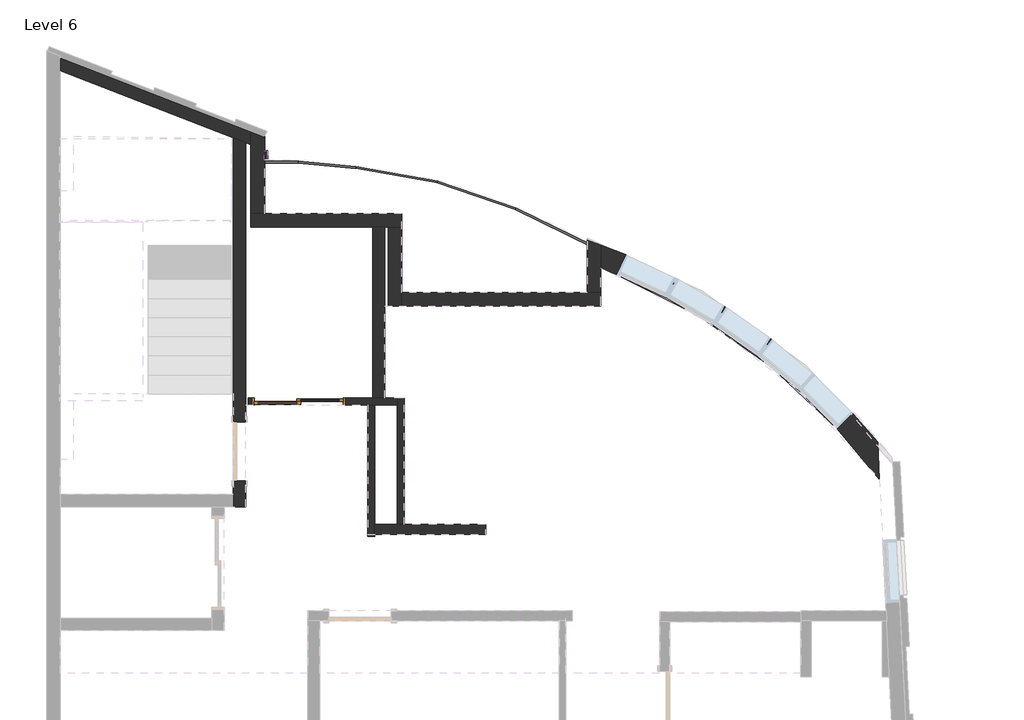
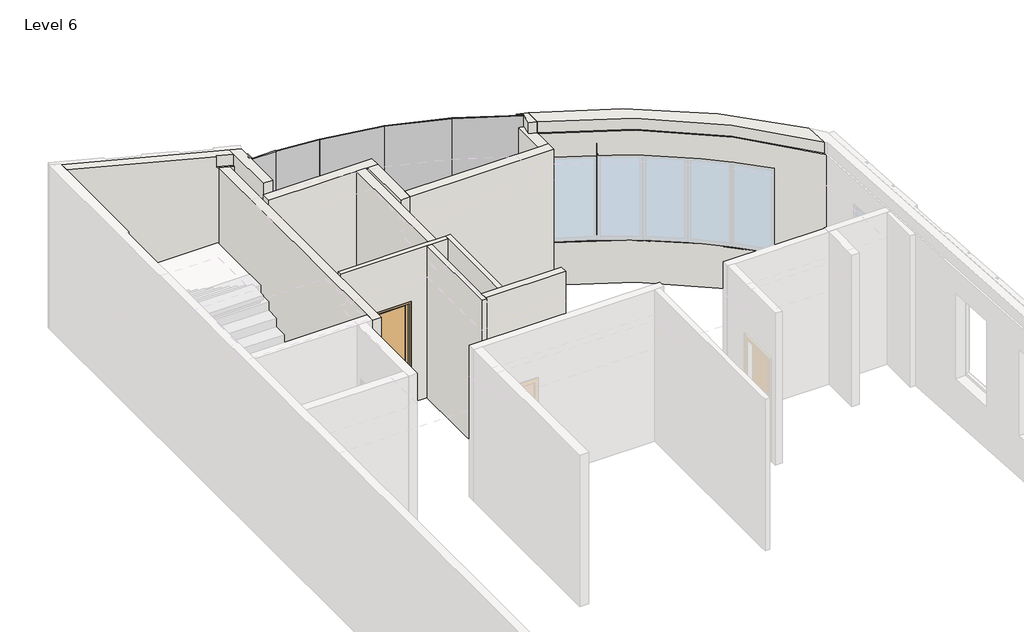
# One storey, part 4 of 5: 14 walls, 5 plates, 2 proxies, 1 door.
"""IFC4 building model written with IfcOpenShell, lengths in millimetres."""

from ifc_helpers import new_model, si_unit, frame, origin, place, context, project, spatial, polyline, circle_curve, outline, extrude, faceted_brep, transform, mapped, element, save
from ifc_brep_helpers import plane_surface, cylinder_surface, revolved_surface, advanced_brep
from components import sliding_door_2_panel_aus_ee5771a8, system_panel_glazed_224d79fb, system_panel_glazed_0fb09b64, system_panel_glazed_2140e779, system_panel_glazed_0c0ff7ba

model = new_model("IFC4")

# Units and contexts
model_context = context("Model", 3, world=origin())
ifc_project = project(units=[si_unit("LENGTHUNIT", "METRE", prefix="MILLI")], contexts=[model_context])

# Site, building, storey
site = spatial("IfcSite", under=ifc_project)
building = spatial("IfcBuilding", under=site)
storey = spatial("IfcBuildingStorey", under=building, Name="Level 6", Elevation=22000.0)

# Proxies
placement = place(None, origin())
element("IfcBuildingElementProxy", 1, Name="Reveal", ObjectType="Reveal", at=placement, inside=storey, context=model_context, shape_type="SweptSolid", body=[
    extrude(outline(polyline([(2938.093022, 13732.1068799), (2988.093022, 13732.1068799), (2988.093022, 13599.3570533), (2938.093022, 13599.3570533), (2938.093022, 13732.1068799)])), frame((0.0, 0.0, 24635.0), z_axis=(0.0, 0.0, 1.0), x_axis=(1.0, 0.0, 0.0)), (0.0, 0.0, 1.0), 50.0),
])
element("IfcBuildingElementProxy", 2, Name="Reveal", ObjectType="Reveal", at=placement, inside=storey, context=model_context, shape_type="SweptSolid", body=[
    extrude(outline(polyline([(2938.093022, 13732.1068799), (2988.093022, 13732.1068799), (2988.093022, 13599.3570533), (2938.093022, 13599.3570533), (2938.093022, 13732.1068799)])), frame((0.0, 0.0, 22875.0), z_axis=(0.0, 0.0, 1.0), x_axis=(1.0, 0.0, 0.0)), (0.0, 0.0, 1.0), 50.0),
])

# Door
sliding_door_2_panel_aus_shape = sliding_door_2_panel_aus_ee5771a8(model_context)
element("IfcDoor", 3, ObjectType="Sliding Door - 2 Panel (AUS) : elavator door", at=placement, inside=storey, context=model_context, shape_type="MappedRepresentation", body=[
    mapped(sliding_door_2_panel_aus_shape, transform((3525.434997, 10056.8748959, 22000.0), x_axis=(-1.0, 0.0, 0.0), y_axis=(0.0, -1.0, 0.0), z_axis=(0.0, 0.0, 1.0))),
])

# Plates
system_panel_glazed_shape = system_panel_glazed_224d79fb(model_context)
element("IfcPlate", 4, ObjectType="System Panel : Glazed", at=placement, inside=storey, context=model_context, shape_type="MappedRepresentation", body=[
    mapped(system_panel_glazed_shape, transform((6054.0124771, 13110.8072352, 22000.0), x_axis=(-0.9455185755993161, 0.32556815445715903, 0.0), y_axis=(-0.32556815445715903, -0.9455185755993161, 0.0), z_axis=(0.0, 0.0, 1.0))),
])
element("IfcPlate", 5, ObjectType="System Panel : Glazed", at=placement, inside=storey, context=model_context, shape_type="MappedRepresentation", body=[
    mapped(system_panel_glazed_shape, transform((4876.5134167, 13415.3291978, 22000.0), x_axis=(-0.9848077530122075, 0.17364817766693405, 0.0), y_axis=(-0.17364817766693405, -0.9848077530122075, 0.0), z_axis=(0.0, 0.0, 1.0))),
])
system_panel_glazed_2_shape = system_panel_glazed_0fb09b64(model_context)
element("IfcPlate", 6, ObjectType="System Panel : Glazed", at=placement, inside=storey, context=model_context, shape_type="MappedRepresentation", body=[
    mapped(system_panel_glazed_2_shape, transform((3856.9795559, 13560.3058198, 22000.0), x_axis=(-0.9956808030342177, 0.09284254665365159, 0.0), y_axis=(-0.09284254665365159, -0.9956808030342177, 0.0), z_axis=(0.0, 0.0, 1.0))),
])
system_panel_glazed_3_shape = system_panel_glazed_2140e779(model_context)
element("IfcPlate", 7, ObjectType="System Panel : Glazed", at=placement, inside=storey, context=model_context, shape_type="MappedRepresentation", body=[
    mapped(system_panel_glazed_3_shape, transform((3189.0685843, 13599.3570533, 22000.0), x_axis=(-1.0, 0.0, 0.0), y_axis=(0.0, -1.0, 0.0), z_axis=(0.0, 0.0, 1.0))),
])
system_panel_glazed_4_shape = system_panel_glazed_0c0ff7ba(model_context)
element("IfcPlate", 8, ObjectType="System Panel : Glazed", at=placement, inside=storey, context=model_context, shape_type="MappedRepresentation", body=[
    mapped(system_panel_glazed_4_shape, transform((7196.5430293, 12636.269013, 22000.0), x_axis=(-0.8987940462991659, 0.43837114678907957, 0.0), y_axis=(-0.43837114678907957, -0.8987940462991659, 0.0), z_axis=(0.0, 0.0, 1.0))),
])

# Walls
element("IfcWall", 9, ObjectType="Generic - 20cm-gypsum-kamposite", at=placement, inside=storey, context=model_context, shape_type="AdvancedBrep", body=[
    advanced_brep(
    [(11908.3121492, 9469.3435074, 25500.0), (7862.3072504, 12351.1222388, 25500.0), (7862.3072504, 12041.0727933, 25500.0), (11933.8152789, 8968.3078963, 25500.0), (7862.3072504, 12351.1222388, 22000.0), (11908.3121492, 9469.3435074, 22000.0), (11936.5482631, 8914.6155682, 22000.0), (7862.3072504, 12008.9189597, 22000.0), (11908.3121492, 9469.3435074, 24745.0), (11544.8906493, 9885.6032931, 24745.0), (11544.8906493, 9885.6032931, 24730.0), (10356.3701317, 10970.353241, 24730.0), (10356.3701317, 10970.353241, 24745.0), (10349.7211648, 10975.4604273, 24745.0), (10349.7211648, 10975.4604273, 24730.0), (9682.5839736, 11443.5981936, 24730.0), (9682.5839736, 11443.5981936, 24745.0), (9675.5092952, 11448.1203824, 24745.0), (9675.5092952, 11448.1203824, 24730.0), (8970.5270255, 11857.0519163, 24730.0), (8970.5270255, 11857.0519163, 24745.0), (8958.907306, 11863.1346618, 24745.0), (8958.907306, 11863.1346618, 24730.0), (8221.1493402, 12209.4555878, 24730.0), (8221.1493402, 12209.4555878, 24745.0), (7862.3072504, 12351.1222388, 24745.0), (7862.3072504, 12351.1222388, 22875.0), (11908.3121492, 9469.3435074, 22875.0), (11908.3121492, 9469.3435074, 22925.0), (11544.8906493, 9885.6032931, 22925.0), (11544.8906493, 9885.6032931, 24695.0), (11908.3121492, 9469.3435074, 24695.0), (8221.1493402, 12209.4555878, 22925.0), (7862.3072504, 12351.1222388, 22925.0), (7862.3072504, 12351.1222388, 24695.0), (8221.1493402, 12209.4555878, 24695.0), (10356.3701317, 10970.353241, 22925.0), (10349.7211648, 10975.4604273, 22925.0), (10349.7211648, 10975.4604273, 24695.0), (10356.3701317, 10970.353241, 24695.0), (9682.5839736, 11443.5981936, 22925.0), (9675.5092952, 11448.1203824, 22925.0), (9675.5092952, 11448.1203824, 24695.0), (9682.5839736, 11443.5981936, 24695.0), (8970.5270255, 11857.0519163, 22925.0), (8958.907306, 11863.1346618, 22925.0), (8958.907306, 11863.1346618, 24695.0), (8970.5270255, 11857.0519163, 24695.0), (11936.5482631, 8914.6155682, 25259.0), (7862.3072504, 12008.9189597, 25259.0), (8085.0423074, 11919.5105106, 22900.0), (8085.0423074, 11919.5105106, 24730.0), (11319.3000133, 9658.2222537, 24730.0), (11319.3000133, 9658.2222537, 22900.0), (11910.4512496, 9427.3186475, 22875.0), (11910.4512496, 9427.3186475, 22925.0), (11910.4512496, 9427.3186475, 24695.0), (11910.4512496, 9427.3186475, 24745.0), (11933.8152789, 8968.3078963, 25259.0), (11527.266896, 9867.8396686, 24730.0), (11527.266896, 9867.8396686, 24695.0), (11527.266896, 9867.8396686, 22925.0), (11527.266896, 9867.8396686, 22900.0), (10335.3479854, 10954.9773917, 24730.0), (10293.8645813, 10895.8599189, 24730.0), (10340.2860207, 10951.1844014, 24730.0), (8210.516289, 12186.8042907, 24730.0), (8948.2742549, 11840.4833647, 24730.0), (8894.6346191, 11726.2163204, 24730.0), (8957.9716481, 11835.4069275, 24730.0), (9662.9539178, 11426.4753937, 24730.0), (9626.6451976, 11363.8805536, 24730.0), (9668.2107942, 11423.1151579, 24730.0), (10293.8645813, 10895.8599189, 22900.0), (10340.2860207, 10951.1844014, 22900.0), (10340.2860207, 10951.1844014, 22925.0), (10340.2860207, 10951.1844014, 24695.0), (10335.3479854, 10954.9773917, 22900.0), (9668.2107942, 11423.1151579, 22900.0), (9626.6451976, 11363.8805536, 22900.0), (9662.9539178, 11426.4753937, 22900.0), (8957.9716481, 11835.4069275, 22900.0), (8894.6346191, 11726.2163204, 22900.0), (8948.2742549, 11840.4833647, 22900.0), (8210.516289, 12186.8042907, 22900.0), (10335.3479854, 10954.9773917, 24695.0), (10335.3479854, 10954.9773917, 22925.0), (9668.2107942, 11423.1151579, 22925.0), (9668.2107942, 11423.1151579, 24695.0), (9662.9539178, 11426.4753937, 24695.0), (9662.9539178, 11426.4753937, 22925.0), (8957.9716481, 11835.4069275, 22925.0), (8957.9716481, 11835.4069275, 24695.0), (8948.2742549, 11840.4833647, 24695.0), (8948.2742549, 11840.4833647, 22925.0), (8210.516289, 12186.8042907, 22925.0), (8210.516289, 12186.8042907, 24695.0), (7862.3072504, 12041.0727933, 25259.0), (7862.3072504, 12324.4469309, 24745.0), (7862.3072504, 12324.4469309, 24695.0), (7862.3072504, 12324.4469309, 22925.0), (7862.3072504, 12324.4469309, 22875.0), (11527.266896, 9867.8396686, 24745.0), (8210.516289, 12186.8042907, 24745.0), (8957.9716481, 11835.4069275, 24745.0), (8948.2742549, 11840.4833647, 24745.0), (9668.2107942, 11423.1151579, 24745.0), (9662.9539178, 11426.4753937, 24745.0), (10340.2860207, 10951.1844014, 24745.0), (10335.3479854, 10954.9773917, 24745.0)],
    [
        (0, 1, circle_curve(frame((4535.6080259, 3399.2748166, 25500.0), z_axis=(0.0, 0.0, 1.0), x_axis=(0.7954529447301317, 0.6060153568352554, 0.0)), 9550.0)),
        (1, 2),
        (2, 3, circle_curve(frame((4535.6080259, 3399.2748166, 25500.0), z_axis=(0.0, 0.0, -1.0), x_axis=(1.0, 0.0, 0.0)), 9260.0)),
        (3, 0),
        (4, 5, circle_curve(frame((4535.6080259, 3399.2748166, 22000.0), z_axis=(0.0, 0.0, -1.0), x_axis=(0.7954529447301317, 0.6060153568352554, 0.0)), 9550.0)),
        (5, 6),
        (6, 7, circle_curve(frame((4535.6080259, 3399.2748166, 22000.0), z_axis=(0.0, 0.0, 1.0), x_axis=(0.7954529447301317, 0.6060153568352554, 0.0)), 9230.0)),
        (7, 4),
        (0, 8),
        (8, 9, circle_curve(frame((4535.6080259, 3399.2748166, 24745.0), z_axis=(0.0, 0.0, 1.0), x_axis=(0.7954529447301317, 0.6060153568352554, 0.0)), 9550.0)),
        (9, 10),
        (10, 11, circle_curve(frame((4535.6080259, 3399.2748166, 24730.0), z_axis=(0.0, 0.0, 1.0), x_axis=(0.7954529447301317, 0.6060153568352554, 0.0)), 9550.0)),
        (11, 12),
        (12, 13, circle_curve(frame((4535.6080259, 3399.2748166, 24745.0), z_axis=(0.0, 0.0, 1.0), x_axis=(0.7954529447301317, 0.6060153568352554, 0.0)), 9550.0)),
        (13, 14),
        (14, 15, circle_curve(frame((4535.6080259, 3399.2748166, 24730.0), z_axis=(0.0, 0.0, 1.0), x_axis=(0.7954529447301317, 0.6060153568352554, 0.0)), 9550.0)),
        (15, 16),
        (16, 17, circle_curve(frame((4535.6080259, 3399.2748166, 24745.0), z_axis=(0.0, 0.0, 1.0), x_axis=(0.7954529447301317, 0.6060153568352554, 0.0)), 9550.0)),
        (17, 18),
        (18, 19, circle_curve(frame((4535.6080259, 3399.2748166, 24730.0), z_axis=(0.0, 0.0, 1.0), x_axis=(0.7954529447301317, 0.6060153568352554, 0.0)), 9550.0)),
        (19, 20),
        (20, 21, circle_curve(frame((4535.6080259, 3399.2748166, 24745.0), z_axis=(0.0, 0.0, 1.0), x_axis=(0.7954529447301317, 0.6060153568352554, 0.0)), 9550.0)),
        (21, 22),
        (22, 23, circle_curve(frame((4535.6080259, 3399.2748166, 24730.0), z_axis=(0.0, 0.0, 1.0), x_axis=(0.7954529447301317, 0.6060153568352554, 0.0)), 9550.0)),
        (23, 24),
        (24, 25, circle_curve(frame((4535.6080259, 3399.2748166, 24745.0), z_axis=(0.0, 0.0, 1.0), x_axis=(0.7954529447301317, 0.6060153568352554, 0.0)), 9550.0)),
        (25, 1),
        (4, 26),
        (26, 27, circle_curve(frame((4535.6080259, 3399.2748166, 22875.0), z_axis=(0.0, 0.0, -1.0), x_axis=(0.7954529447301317, 0.6060153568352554, 0.0)), 9550.0)),
        (27, 5),
        (28, 29, circle_curve(frame((4535.6080259, 3399.2748166, 22925.0), z_axis=(0.0, 0.0, 1.0), x_axis=(0.7954529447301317, 0.6060153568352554, 0.0)), 9550.0)),
        (29, 30),
        (30, 31, circle_curve(frame((4535.6080259, 3399.2748166, 24695.0), z_axis=(0.0, 0.0, -1.0), x_axis=(0.7954529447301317, 0.6060153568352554, 0.0)), 9550.0)),
        (31, 28),
        (32, 33, circle_curve(frame((4535.6080259, 3399.2748166, 22925.0), z_axis=(0.0, 0.0, 1.0), x_axis=(0.7954529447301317, 0.6060153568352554, 0.0)), 9550.0)),
        (33, 34),
        (34, 35, circle_curve(frame((4535.6080259, 3399.2748166, 24695.0), z_axis=(0.0, 0.0, -1.0), x_axis=(0.7954529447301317, 0.6060153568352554, 0.0)), 9550.0)),
        (35, 32),
        (36, 37, circle_curve(frame((4535.6080259, 3399.2748166, 22925.0), z_axis=(0.0, 0.0, 1.0), x_axis=(0.7954529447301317, 0.6060153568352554, 0.0)), 9550.0)),
        (37, 38),
        (38, 39, circle_curve(frame((4535.6080259, 3399.2748166, 24695.0), z_axis=(0.0, 0.0, -1.0), x_axis=(0.7954529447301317, 0.6060153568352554, 0.0)), 9550.0)),
        (39, 36),
        (40, 41, circle_curve(frame((4535.6080259, 3399.2748166, 22925.0), z_axis=(0.0, 0.0, 1.0), x_axis=(0.7954529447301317, 0.6060153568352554, 0.0)), 9550.0)),
        (41, 42),
        (42, 43, circle_curve(frame((4535.6080259, 3399.2748166, 24695.0), z_axis=(0.0, 0.0, -1.0), x_axis=(0.7954529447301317, 0.6060153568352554, 0.0)), 9550.0)),
        (43, 40),
        (44, 45, circle_curve(frame((4535.6080259, 3399.2748166, 22925.0), z_axis=(0.0, 0.0, 1.0), x_axis=(0.7954529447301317, 0.6060153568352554, 0.0)), 9550.0)),
        (45, 46),
        (46, 47, circle_curve(frame((4535.6080259, 3399.2748166, 24695.0), z_axis=(0.0, 0.0, -1.0), x_axis=(0.7954529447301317, 0.6060153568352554, 0.0)), 9550.0)),
        (47, 44),
        (6, 48),
        (48, 49, circle_curve(frame((4535.6080259, 3399.2748166, 25259.0), z_axis=(0.0, 0.0, 1.0), x_axis=(0.7954529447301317, 0.6060153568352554, 0.0)), 9230.0)),
        (49, 7),
        (50, 51),
        (51, 52, circle_curve(frame((4535.6080259, 3399.2748166, 24730.0), z_axis=(0.0, 0.0, -1.0), x_axis=(0.7954529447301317, 0.6060153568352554, 0.0)), 9230.0)),
        (52, 53),
        (53, 50, circle_curve(frame((4535.6080259, 3399.2748166, 22900.0), z_axis=(0.0, 0.0, 1.0), x_axis=(0.7954529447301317, 0.6060153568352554, 0.0)), 9230.0)),
        (27, 54),
        (54, 55),
        (55, 28),
        (31, 56),
        (56, 57),
        (57, 8),
        (3, 58),
        (58, 48),
        (52, 59),
        (59, 60),
        (60, 30),
        (29, 61),
        (61, 62),
        (62, 53),
        (14, 63),
        (63, 64),
        (64, 65),
        (65, 11),
        (10, 59),
        (51, 66),
        (66, 23),
        (22, 67),
        (67, 68),
        (68, 69),
        (69, 19),
        (18, 70),
        (70, 71),
        (71, 72),
        (72, 15),
        (64, 73),
        (73, 74),
        (74, 75),
        (75, 36),
        (39, 76),
        (76, 65),
        (62, 74, circle_curve(frame((4535.6080259, 3399.2748166, 22900.0), z_axis=(0.0, 0.0, 1.0), x_axis=(0.32740306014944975, 0.9448847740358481, 0.0)), 9525.0)),
        (73, 77),
        (77, 78, circle_curve(frame((4535.6080259, 3399.2748166, 22900.0), z_axis=(0.0, 0.0, 1.0), x_axis=(0.32740306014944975, 0.9448847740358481, 0.0)), 9525.0)),
        (78, 79),
        (79, 80),
        (80, 81, circle_curve(frame((4535.6080259, 3399.2748166, 22900.0), z_axis=(0.0, 0.0, 1.0), x_axis=(0.32740306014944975, 0.9448847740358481, 0.0)), 9525.0)),
        (81, 82),
        (82, 83),
        (83, 84, circle_curve(frame((4535.6080259, 3399.2748166, 22900.0), z_axis=(0.0, 0.0, 1.0), x_axis=(0.32740306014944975, 0.9448847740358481, 0.0)), 9525.0)),
        (84, 50),
        (63, 85),
        (85, 38),
        (37, 86),
        (86, 77),
        (71, 79),
        (78, 87),
        (87, 40),
        (43, 88),
        (88, 72),
        (70, 89),
        (89, 42),
        (41, 90),
        (90, 80),
        (68, 82),
        (81, 91),
        (91, 44),
        (47, 92),
        (92, 69),
        (67, 93),
        (93, 46),
        (45, 94),
        (94, 83),
        (84, 95),
        (95, 32),
        (35, 96),
        (96, 66),
        (49, 97),
        (97, 2),
        (25, 98),
        (98, 99),
        (99, 34),
        (33, 100),
        (100, 101),
        (101, 26),
        (55, 61, circle_curve(frame((4535.6080259, 3399.2748166, 22925.0), z_axis=(0.0, 0.0, 1.0), x_axis=(0.32740306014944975, 0.9448847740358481, 0.0)), 9525.0)),
        (95, 100, circle_curve(frame((4535.6080259, 3399.2748166, 22925.0), z_axis=(0.0, 0.0, 1.0), x_axis=(0.32740306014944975, 0.9448847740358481, 0.0)), 9525.0)),
        (75, 86, circle_curve(frame((4535.6080259, 3399.2748166, 22925.0), z_axis=(0.0, 0.0, 1.0), x_axis=(0.32740306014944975, 0.9448847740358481, 0.0)), 9525.0)),
        (87, 90, circle_curve(frame((4535.6080259, 3399.2748166, 22925.0), z_axis=(0.0, 0.0, 1.0), x_axis=(0.32740306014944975, 0.9448847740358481, 0.0)), 9525.0)),
        (91, 94, circle_curve(frame((4535.6080259, 3399.2748166, 22925.0), z_axis=(0.0, 0.0, 1.0), x_axis=(0.32740306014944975, 0.9448847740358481, 0.0)), 9525.0)),
        (101, 54, circle_curve(frame((4535.6080259, 3399.2748166, 22875.0), z_axis=(0.0, 0.0, -1.0), x_axis=(0.32740306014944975, 0.9448847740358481, 0.0)), 9525.0)),
        (57, 102, circle_curve(frame((4535.6080259, 3399.2748166, 24745.0), z_axis=(0.0, 0.0, 1.0), x_axis=(0.7339562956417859, 0.6791966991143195, 0.0)), 9525.0)),
        (102, 9),
        (60, 56, circle_curve(frame((4535.6080259, 3399.2748166, 24695.0), z_axis=(0.0, 0.0, -1.0), x_axis=(0.7339562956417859, 0.6791966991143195, 0.0)), 9525.0)),
        (59, 102),
        (24, 103),
        (103, 98, circle_curve(frame((4535.6080259, 3399.2748166, 24745.0), z_axis=(0.0, 0.0, 1.0), x_axis=(0.32740306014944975, 0.9448847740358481, 0.0)), 9525.0)),
        (99, 96, circle_curve(frame((4535.6080259, 3399.2748166, 24695.0), z_axis=(0.0, 0.0, -1.0), x_axis=(0.32740306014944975, 0.9448847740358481, 0.0)), 9525.0)),
        (103, 66),
        (104, 105, circle_curve(frame((4535.6080259, 3399.2748166, 24745.0), z_axis=(0.0, 0.0, 1.0), x_axis=(0.4631726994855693, 0.8862680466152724, 0.0)), 9525.0)),
        (105, 21),
        (20, 104),
        (93, 92, circle_curve(frame((4535.6080259, 3399.2748166, 24695.0), z_axis=(0.0, 0.0, -1.0), x_axis=(0.4631726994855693, 0.8862680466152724, 0.0)), 9525.0)),
        (104, 69),
        (67, 105),
        (106, 107, circle_curve(frame((4535.6080259, 3399.2748166, 24745.0), z_axis=(0.0, 0.0, 1.0), x_axis=(0.5382095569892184, 0.8428110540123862, 0.0)), 9525.0)),
        (107, 17),
        (16, 106),
        (89, 88, circle_curve(frame((4535.6080259, 3399.2748166, 24695.0), z_axis=(0.0, 0.0, -1.0), x_axis=(0.5382095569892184, 0.8428110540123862, 0.0)), 9525.0)),
        (106, 72),
        (70, 107),
        (108, 109, circle_curve(frame((4535.6080259, 3399.2748166, 24745.0), z_axis=(0.0, 0.0, 1.0), x_axis=(0.6088076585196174, 0.7933178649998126, 0.0)), 9525.0)),
        (109, 13),
        (12, 108),
        (85, 76, circle_curve(frame((4535.6080259, 3399.2748166, 24695.0), z_axis=(0.0, 0.0, -1.0), x_axis=(0.6088076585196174, 0.7933178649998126, 0.0)), 9525.0)),
        (108, 65),
        (63, 109),
        (58, 97, circle_curve(frame((4535.6080259, 3399.2748166, 25259.0), z_axis=(0.0, 0.0, 1.0), x_axis=(1.0, 0.0, 0.0)), 9260.0)),
    ],
    [
        plane_surface(frame((12132.1836481, 9186.7214744, 25500.0), z_axis=(0.0, 0.0, 1.0), x_axis=(-0.6060153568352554, 0.7954529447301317, 0.0))),
        plane_surface(frame((12132.1836481, 9186.7214744, 22000.0), z_axis=(0.0, 0.0, -1.0), x_axis=(0.6060153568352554, -0.7954529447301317, 0.0))),
        cylinder_surface(frame((4535.6080259, 3399.2748166, 22000.0), z_axis=(0.0, 0.0, 1.0), x_axis=(0.7954529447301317, 0.6060153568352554, 0.0)), 9550.0),
        revolved_surface(polyline([(11877.638705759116, 8992.796560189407, 22000.0), (11877.638705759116, 8992.796560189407, 25259.0)]), (4535.6080259, 3399.2748166, 22000.0), (0.0, 0.0, -1.0)),
        plane_surface(frame((11929.5360205, 9052.3783941, 22000.0), z_axis=(0.9987070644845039, 0.05083502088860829, 0.0), x_axis=(0.05083502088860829, -0.9987070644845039, 0.0))),
        plane_surface(frame((10471.5277129, 8803.721596, 22900.0), z_axis=(-0.7098961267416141, 0.7043063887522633, 0.0), x_axis=(0.7043063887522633, 0.7098961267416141, 0.0))),
        plane_surface(frame((10001.1116007, 9279.0246578, 24730.0), z_axis=(0.0, 0.0, -1.0), x_axis=(0.6427769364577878, 0.7660533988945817, 0.0))),
        plane_surface(frame((9376.7780806, 9802.887861, 24730.0), z_axis=(0.7660533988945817, -0.6427769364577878, 0.0), x_axis=(0.6427769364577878, 0.7660533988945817, 0.0))),
        plane_surface(frame((9376.7780806, 9802.887861, 22900.0), z_axis=(0.0, 0.0, 1.0), x_axis=(0.6427769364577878, 0.7660533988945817, 0.0))),
        plane_surface(frame((9474.332262, 9727.9548086, 22900.0), z_axis=(-0.8185732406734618, 0.5744021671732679, 0.0), x_axis=(0.5744021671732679, 0.8185732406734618, 0.0))),
        plane_surface(frame((8807.1950709, 10196.0925748, 24730.0), z_axis=(0.8185732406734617, -0.574402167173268, 0.0), x_axis=(0.574402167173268, 0.8185732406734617, 0.0))),
        plane_surface(frame((8910.8324147, 10129.8467885, 22900.0), z_axis=(-0.8650089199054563, 0.5017564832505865, 0.0), x_axis=(0.5017564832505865, 0.8650089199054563, 0.0))),
        plane_surface(frame((8205.850145, 10538.7783223, 24730.0), z_axis=(0.8650089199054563, -0.5017564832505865, 0.0), x_axis=(0.5017564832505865, 0.8650089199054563, 0.0))),
        plane_surface(frame((8311.308421, 10483.5725268, 22900.0), z_axis=(-0.9052244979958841, 0.42493365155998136, 0.0), x_axis=(0.42493365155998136, 0.9052244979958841, 0.0))),
        plane_surface(frame((7573.5504552, 10829.8934528, 24730.0), z_axis=(0.9052244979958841, -0.42493365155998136, 0.0), x_axis=(0.42493365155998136, 0.9052244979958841, 0.0))),
        plane_surface(frame((7862.3072504, 12316.4556234, 22000.0), z_axis=(-1.0, 0.0, 0.0), x_axis=(0.0, 1.0, 0.0))),
        plane_surface(frame((4535.6080259, 3399.2748166, 22925.0), z_axis=(0.0, 0.0, -1.0), x_axis=(0.32740306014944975, 0.9448847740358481, 0.0))),
        plane_surface(frame((4535.6080259, 3399.2748166, 22875.0), z_axis=(0.0, 0.0, 1.0), x_axis=(0.32740306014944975, 0.9448847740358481, 0.0))),
        cylinder_surface(frame((4535.6080259, 3399.2748166, 22900.0), z_axis=(0.0, 0.0, -1.0), x_axis=(0.32740306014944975, 0.9448847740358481, 0.0)), 9525.0),
        plane_surface(frame((4535.6080259, 3399.2748166, 24745.0), z_axis=(0.0, 0.0, -1.0), x_axis=(0.7339562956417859, 0.6791966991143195, 0.0))),
        plane_surface(frame((4535.6080259, 3399.2748166, 24695.0), z_axis=(0.0, 0.0, 1.0), x_axis=(0.7339562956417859, 0.6791966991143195, 0.0))),
        cylinder_surface(frame((4535.6080259, 3399.2748166, 24720.0), z_axis=(0.0, 0.0, -1.0), x_axis=(0.7339562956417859, 0.6791966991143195, 0.0)), 9525.0),
        plane_surface(frame((4535.6080259, 3399.2748166, 24745.0), z_axis=(0.0, 0.0, -1.0), x_axis=(0.32740306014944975, 0.9448847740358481, 0.0))),
        plane_surface(frame((4535.6080259, 3399.2748166, 24695.0), z_axis=(0.0, 0.0, 1.0), x_axis=(0.32740306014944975, 0.9448847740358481, 0.0))),
        cylinder_surface(frame((4535.6080259, 3399.2748166, 24720.0), z_axis=(0.0, 0.0, -1.0), x_axis=(0.32740306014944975, 0.9448847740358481, 0.0)), 9525.0),
        plane_surface(frame((7573.5504552, 10829.8934528, 24730.0), z_axis=(-0.9052244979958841, 0.42493365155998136, 0.0), x_axis=(0.42493365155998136, 0.9052244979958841, 0.0))),
        plane_surface(frame((4535.6080259, 3399.2748166, 24745.0), z_axis=(0.0, 0.0, -1.0), x_axis=(0.4631726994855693, 0.8862680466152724, 0.0))),
        plane_surface(frame((4535.6080259, 3399.2748166, 24695.0), z_axis=(0.0, 0.0, 1.0), x_axis=(0.4631726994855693, 0.8862680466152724, 0.0))),
        cylinder_surface(frame((4535.6080259, 3399.2748166, 24720.0), z_axis=(0.0, 0.0, -1.0), x_axis=(0.4631726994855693, 0.8862680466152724, 0.0)), 9525.0),
        plane_surface(frame((8311.308421, 10483.5725268, 22900.0), z_axis=(0.9052244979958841, -0.42493365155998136, 0.0), x_axis=(0.42493365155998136, 0.9052244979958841, 0.0))),
        plane_surface(frame((8205.850145, 10538.7783223, 24730.0), z_axis=(-0.8650089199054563, 0.5017564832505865, 0.0), x_axis=(0.5017564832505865, 0.8650089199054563, 0.0))),
        plane_surface(frame((4535.6080259, 3399.2748166, 24745.0), z_axis=(0.0, 0.0, -1.0), x_axis=(0.5382095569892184, 0.8428110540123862, 0.0))),
        plane_surface(frame((4535.6080259, 3399.2748166, 24695.0), z_axis=(0.0, 0.0, 1.0), x_axis=(0.5382095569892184, 0.8428110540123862, 0.0))),
        cylinder_surface(frame((4535.6080259, 3399.2748166, 24720.0), z_axis=(0.0, 0.0, -1.0), x_axis=(0.5382095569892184, 0.8428110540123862, 0.0)), 9525.0),
        plane_surface(frame((8910.8324147, 10129.8467885, 22900.0), z_axis=(0.8650089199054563, -0.5017564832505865, 0.0), x_axis=(0.5017564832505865, 0.8650089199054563, 0.0))),
        plane_surface(frame((8807.1950709, 10196.0925748, 24730.0), z_axis=(-0.8185732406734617, 0.574402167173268, 0.0), x_axis=(0.574402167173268, 0.8185732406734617, 0.0))),
        plane_surface(frame((4535.6080259, 3399.2748166, 24745.0), z_axis=(0.0, 0.0, -1.0), x_axis=(0.6088076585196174, 0.7933178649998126, 0.0))),
        plane_surface(frame((4535.6080259, 3399.2748166, 24695.0), z_axis=(0.0, 0.0, 1.0), x_axis=(0.6088076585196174, 0.7933178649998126, 0.0))),
        cylinder_surface(frame((4535.6080259, 3399.2748166, 24720.0), z_axis=(0.0, 0.0, -1.0), x_axis=(0.6088076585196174, 0.7933178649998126, 0.0)), 9525.0),
        plane_surface(frame((9474.332262, 9727.9548086, 22900.0), z_axis=(0.8185732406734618, -0.5744021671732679, 0.0), x_axis=(0.5744021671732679, 0.8185732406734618, 0.0))),
        plane_surface(frame((9376.7780806, 9802.887861, 24730.0), z_axis=(-0.7660533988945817, 0.6427769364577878, 0.0), x_axis=(0.6427769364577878, 0.7660533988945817, 0.0))),
        plane_surface(frame((10471.5277129, 8803.721596, 22900.0), z_axis=(0.7098961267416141, -0.7043063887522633, 0.0), x_axis=(0.7043063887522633, 0.7098961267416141, 0.0))),
        plane_surface(frame((-80.0421304, 14944.8648867, 25259.0), z_axis=(0.0, 0.0, 1.0), x_axis=(0.9323005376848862, -0.36168454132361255, 0.0))),
        revolved_surface(polyline([(13795.608025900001, 3399.2748166, 25259.0), (13795.608025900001, 3399.2748166, 25500.0)]), (4535.6080259, 3399.2748166, 25500.0), (0.0, 0.0, -1.0)),
    ],
    [
        (0, [[1, 2, 3, 4]]),
        (1, [[5, 6, 7, 8]]),
        (2, [[-1, 9, 10, 11, 12, 13, 14, 15, 16, 17, 18, 19, 20, 21, 22, 23, 24, 25, 26, 27]]),
        (2, [[-5, 28, 29, 30]]),
        (2, [[31, 32, 33, 34]]),
        (2, [[35, 36, 37, 38]]),
        (2, [[39, 40, 41, 42]]),
        (2, [[43, 44, 45, 46]]),
        (2, [[47, 48, 49, 50]]),
        (3, [[-7, 51, 52, 53], [54, 55, 56, 57]]),
        (4, [[-6, -30, 58, 59, 60, -34, 61, 62, 63, -9, -4, 64, 65, -51]]),
        (5, [[-56, 66, 67, 68, -32, 69, 70, 71]]),
        (6, [[-16, 72, 73, 74, 75, -12, 76, -66, -55, 77, 78, -24, 79, 80, 81, 82, -20, 83, 84, 85, 86]]),
        (7, [[87, 88, 89, 90, -42, 91, 92, -74]]),
        (8, [[-57, -71, 93, -88, 94, 95, 96, 97, 98, 99, 100, 101, 102]]),
        (9, [[-87, -73, 103, 104, -40, 105, 106, -94]]),
        (10, [[107, -96, 108, 109, -46, 110, 111, -85]]),
        (11, [[-107, -84, 112, 113, -44, 114, 115, -97]]),
        (12, [[116, -99, 117, 118, -50, 119, 120, -81]]),
        (13, [[-116, -80, 121, 122, -48, 123, 124, -100]]),
        (14, [[-54, -102, 125, 126, -38, 127, 128, -77]]),
        (15, [[-8, -53, 129, 130, -2, -27, 131, 132, 133, -36, 134, 135, 136, -28]]),
        (16, [[137, -69, -31, -60]]),
        (16, [[-134, -35, -126, 138]]),
        (16, [[139, -105, -39, -90]]),
        (16, [[140, -114, -43, -109]]),
        (16, [[141, -123, -47, -118]]),
        (17, [[142, -58, -29, -136]]),
        (18, [[-137, -59, -142, -135, -138, -125, -101, -124, -141, -117, -98, -115, -140, -108, -95, -106, -139, -89, -93, -70]]),
        (19, [[143, 144, -10, -63]]),
        (20, [[145, -61, -33, -68]]),
        (21, [[-143, -62, -145, -67, 146]]),
        (22, [[147, 148, -131, -26]]),
        (23, [[149, -127, -37, -133]]),
        (24, [[150, -128, -149, -132, -148]]),
        (25, [[-150, -147, -25, -78]]),
        (26, [[151, 152, -22, 153]]),
        (27, [[154, -119, -49, -122]]),
        (28, [[-151, 155, -120, -154, -121, 156]]),
        (29, [[-156, -79, -23, -152]]),
        (30, [[-155, -153, -21, -82]]),
        (31, [[157, 158, -18, 159]]),
        (32, [[160, -110, -45, -113]]),
        (33, [[-157, 161, -111, -160, -112, 162]]),
        (34, [[-162, -83, -19, -158]]),
        (35, [[-161, -159, -17, -86]]),
        (36, [[163, 164, -14, 165]]),
        (37, [[166, -91, -41, -104]]),
        (38, [[-163, 167, -92, -166, -103, 168]]),
        (39, [[-168, -72, -15, -164]]),
        (40, [[-167, -165, -13, -75]]),
        (41, [[-146, -76, -11, -144]]),
        (42, [[169, -129, -52, -65]]),
        (43, [[-169, -64, -3, -130]]),
    ],
),
])
element("IfcWall", 10, ObjectType="Generic - 15cm-gypsu-2boith", at=placement, inside=storey, context=model_context, shape_type="Brep", body=[
    faceted_brep([(4549.2779066, 8112.262158, 22000.0), (6174.9402277, 8112.262158, 22000.0), (6174.9402277, 8112.262158, 25259.0), (4549.2779066, 8112.262158, 25259.0), (6174.9402277, 8262.262158, 22000.0), (4979.9402277, 8262.262158, 22000.0), (4879.9402277, 8262.262158, 22000.0), (4549.2779066, 8262.262158, 22000.0), (4549.2779066, 8262.262158, 25259.0), (6174.9402277, 8262.262158, 25259.0)], [[[0, 1, 2, 3]], [[4, 5, 6, 7, 8, 9]], [[1, 0, 7, 6, 5, 4]], [[1, 4, 9, 2]], [[7, 0, 3, 8]], [[3, 2, 9, 8]]]),
])
element("IfcWall", 11, ObjectType="Generic - 10cm-gypsu-2boith", at=placement, inside=storey, context=model_context, shape_type="Brep", body=[
    faceted_brep([(4549.2779066, 8082.262158, 22000.0), (4549.2779066, 8112.262158, 22000.0), (4549.2779066, 8262.262158, 22000.0), (4549.2779066, 10006.8748959, 22000.0), (4549.2779066, 10006.8748959, 25259.0), (4549.2779066, 8262.262158, 25259.0), (4549.2779066, 8112.262158, 25259.0), (4549.2779066, 8082.262158, 25259.0), (4449.2779066, 10006.8748959, 22000.0), (4449.2779066, 8082.262158, 22000.0), (4449.2779066, 8082.262158, 25259.0), (4449.2779066, 10006.8748959, 25259.0)], [[[0, 1, 2, 3, 4, 5, 6, 7]], [[8, 9, 10, 11]], [[3, 2, 1, 0, 9, 8]], [[9, 0, 7, 10]], [[3, 8, 11, 4]], [[7, 6, 5, 4, 11, 10]]]),
])
element("IfcWall", 12, ObjectType="Generic - 10cm-gypsu-2boith", at=placement, inside=storey, context=model_context, shape_type="Brep", body=[
    faceted_brep([(4879.9402277, 10106.8748959, 22000.0), (4879.9402277, 10006.8748959, 22000.0), (4879.9402277, 8262.262158, 22000.0), (4879.9402277, 8262.262158, 25259.0), (4879.9402277, 10006.8748959, 25259.0), (4879.9402277, 10106.8748959, 25259.0), (4979.9402277, 8262.262158, 22000.0), (4979.9402277, 10106.8748959, 22000.0), (4979.9402277, 10106.8748959, 25259.0), (4979.9402277, 8262.262158, 25259.0)], [[[0, 1, 2, 3, 4, 5]], [[6, 7, 8, 9]], [[2, 1, 0, 7, 6]], [[2, 6, 9, 3]], [[7, 0, 5, 8]], [[5, 4, 3, 9, 8]]]),
])
element("IfcWall", 13, ObjectType="Generic - 10cm-gypsu-2boith", at=placement, inside=storey, context=model_context, shape_type="Brep", body=[
    faceted_brep([(4879.9402277, 10106.8748959, 22000.0), (4699.9587688, 10106.8748959, 22000.0), (4519.9587688, 10106.8748959, 22000.0), (4129.6769958, 10106.8748959, 22000.0), (4129.6769958, 10106.8748959, 24183.0), (2749.6769958, 10106.8748959, 24183.0), (2749.6769958, 10106.8748959, 22000.0), (2699.9587442, 10106.8748959, 22000.0), (2699.9587442, 10106.8748959, 25259.0), (4519.9587688, 10106.8748959, 25259.0), (4699.9587688, 10106.8748959, 25259.0), (4879.9402277, 10106.8748959, 25259.0), (4129.6769958, 10006.8748959, 22000.0), (4449.2779066, 10006.8748959, 22000.0), (4549.2779066, 10006.8748959, 22000.0), (4879.9402277, 10006.8748959, 22000.0), (4879.9402277, 10006.8748959, 25259.0), (4549.2779066, 10006.8748959, 25259.0), (4449.2779066, 10006.8748959, 25259.0), (2699.9587442, 10006.8748959, 25259.0), (2699.9587442, 10006.8748959, 22000.0), (2749.6769958, 10006.8748959, 22000.0), (2749.6769958, 10006.8748959, 24183.0), (4129.6769958, 10006.8748959, 24183.0)], [[[0, 1, 2, 3, 4, 5, 6, 7, 8, 9, 10, 11]], [[12, 13, 14, 15, 16, 17, 18, 19, 20, 21, 22, 23]], [[20, 7, 6, 21]], [[0, 15, 14, 13, 12, 3, 2, 1]], [[7, 20, 19, 8]], [[15, 0, 11, 16]], [[11, 10, 9, 8, 19, 18, 17, 16]], [[23, 4, 3, 12]], [[4, 23, 22, 5]], [[5, 22, 21, 6]]]),
])
element("IfcWall", 14, ObjectType="Generic - 18cm-gypsu-2boith 2", at=placement, inside=storey, context=model_context, shape_type="Brep", body=[
    faceted_brep([(2661.8607589, 8896.8748746, 22000.0), (2661.8607589, 8896.8748746, 24032.0), (2661.8607589, 9760.8748746, 24032.0), (2661.8607589, 9760.8748746, 22000.0), (2661.8607589, 13848.9694672, 22000.0), (2661.8607589, 13848.9694672, 25259.0), (2661.8607589, 8516.8748746, 25259.0), (2661.8607589, 8516.8748746, 22000.0), (2481.8607589, 8896.8748746, 24032.0), (2481.8607589, 8896.8748746, 22000.0), (2481.8607589, 8696.8748746, 22000.0), (2481.8607589, 8516.8748746, 22000.0), (2481.8607589, 8516.8748746, 25259.0), (2481.8607589, 8696.8748746, 25259.0), (2481.8607589, 13918.8001868, 25259.0), (2481.8607589, 13918.8001868, 22000.0), (2481.8607589, 9760.8748746, 22000.0), (2481.8607589, 9760.8748746, 24032.0)], [[[0, 1, 2, 3, 4, 5, 6, 7]], [[8, 9, 10, 11, 12, 13, 14, 15, 16, 17]], [[15, 4, 3, 16]], [[7, 11, 10, 9, 0]], [[4, 15, 14, 5]], [[11, 7, 6, 12]], [[1, 0, 9, 8]], [[2, 1, 8, 17]], [[3, 2, 17, 16]], [[6, 5, 14, 13, 12]]]),
])
element("IfcWall", 15, ObjectType="Generic - 18cm-gypsu-2boith 2", at=placement, inside=storey, context=model_context, shape_type="SweptSolid", body=[
    extrude(outline(polyline([(4519.9587688, 10106.8748959), (4519.9587688, 12611.9409286), (4699.9587688, 12611.9409286), (4699.9587688, 10106.8748959), (4519.9587688, 10106.8748959)])), frame((0.0, 0.0, 22000.0), z_axis=(0.0, 0.0, 1.0), x_axis=(1.0, 0.0, 0.0)), (0.0, 0.0, 1.0), 3259.0),
])
element("IfcWall", 16, ObjectType="kamposite5cm", at=placement, inside=storey, context=model_context, shape_type="Brep", body=[
    faceted_brep([(2913.093022, 13751.504302, 22000.0), (2913.093022, 13599.3570533, 22000.0), (2913.093022, 13599.3570533, 25500.0), (2913.093022, 13751.504302, 25500.0), (2963.093022, 13599.3570533, 22000.0), (2963.093022, 13732.1068799, 22000.0), (2963.093022, 13732.1068799, 22875.0), (2963.093022, 13599.3570533, 22875.0), (2963.093022, 13732.1068799, 25500.0), (2963.093022, 13599.3570533, 25500.0), (2963.093022, 13599.3570533, 24685.0), (2963.093022, 13732.1068799, 24685.0), (2963.093022, 13732.1068799, 24635.0), (2963.093022, 13599.3570533, 24635.0), (2963.093022, 13599.3570533, 22925.0), (2963.093022, 13732.1068799, 22925.0), (2938.093022, 13599.3570533, 22875.0), (2938.093022, 13599.3570533, 22925.0), (2938.093022, 13599.3570533, 24635.0), (2938.093022, 13599.3570533, 24685.0), (2938.093022, 13732.1068799, 24685.0), (2938.093022, 13732.1068799, 24635.0), (2938.093022, 13732.1068799, 22925.0), (2938.093022, 13732.1068799, 22875.0)], [[[0, 1, 2, 3]], [[4, 5, 6, 7]], [[8, 9, 10, 11]], [[12, 13, 14, 15]], [[1, 0, 5, 4]], [[2, 1, 4, 7, 16, 17, 14, 13, 18, 19, 10, 9]], [[3, 2, 9, 8]], [[20, 21, 12, 11]], [[19, 20, 11, 10]], [[21, 18, 13, 12]], [[21, 20, 19, 18]], [[22, 23, 6, 15]], [[17, 22, 15, 14]], [[23, 16, 7, 6]], [[23, 22, 17, 16]], [[0, 3, 8, 11, 12, 15, 6, 5]]]),
])
element("IfcWall", 17, ObjectType="Generic - 20cm-gypsum", at=placement, inside=storey, context=model_context, shape_type="Brep", body=[
    faceted_brep([(4949.6116933, 11454.5991251, 22000.0), (7862.3072504, 11454.5991251, 22000.0), (7862.3072504, 11454.5991251, 25259.0), (4949.6116933, 11454.5991251, 25259.0), (7862.3072504, 11654.5991251, 22000.0), (7662.3072504, 11654.5991251, 22000.0), (4949.6116933, 11654.5991251, 22000.0), (4949.6116933, 11654.5991251, 25259.0), (7662.3072504, 11654.5991251, 25259.0), (7862.3072504, 11654.5991251, 25259.0)], [[[0, 1, 2, 3]], [[4, 5, 6, 7, 8, 9]], [[1, 0, 6, 5, 4]], [[1, 4, 9, 2]], [[6, 0, 3, 7]], [[3, 2, 9, 8, 7]]]),
])
element("IfcWall", 18, ObjectType="Generic - 20cm-gypsum", at=placement, inside=storey, context=model_context, shape_type="AdvancedBrep", body=[
    advanced_brep(
    [(7862.3072504, 11654.5991251, 22000.0), (7862.3072504, 12008.9189597, 22000.0), (7862.3072504, 12351.1222388, 22000.0), (7862.3072504, 12351.1222388, 22875.0), (7862.3072504, 12324.4469309, 22875.0), (7862.3072504, 12324.4469309, 22925.0), (7862.3072504, 12351.1222388, 22925.0), (7862.3072504, 12351.1222388, 24695.0), (7862.3072504, 12324.4469309, 24695.0), (7862.3072504, 12324.4469309, 24745.0), (7862.3072504, 12351.1222388, 24745.0), (7862.3072504, 12351.1222388, 25500.0), (7862.3072504, 12041.0727933, 25500.0), (7862.3072504, 12041.0727933, 25259.0), (7862.3072504, 12008.9189597, 25259.0), (7862.3072504, 11654.5991251, 25259.0), (7662.3072504, 12422.9244086, 22000.0), (7662.3072504, 11654.5991251, 22000.0), (7662.3072504, 11654.5991251, 25259.0), (7662.3072504, 12409.1006238, 25259.0), (7662.3072504, 12409.1006238, 25500.0), (7662.3072504, 12422.9244086, 25500.0), (7662.3072504, 12422.9244086, 24745.0), (7662.3072504, 12396.4619859, 24745.0), (7662.3072504, 12396.4619859, 24695.0), (7662.3072504, 12422.9244086, 24695.0), (7662.3072504, 12422.9244086, 22925.0), (7662.3072504, 12396.4619859, 22925.0), (7662.3072504, 12396.4619859, 22875.0), (7662.3072504, 12422.9244086, 22875.0), (7764.1900252, 12359.4090743, 25500.0), (7717.6351631, 12095.3833312, 25500.0), (7717.6351631, 12095.3833312, 25259.0), (7764.1900252, 12359.4090743, 25259.0)],
    [
        (0, 1),
        (1, 2),
        (2, 3),
        (3, 4),
        (4, 5),
        (5, 6),
        (6, 7),
        (7, 8),
        (8, 9),
        (9, 10),
        (10, 11),
        (11, 12),
        (12, 13),
        (13, 14),
        (14, 15),
        (15, 0),
        (16, 17),
        (17, 18),
        (18, 19),
        (19, 20),
        (20, 21),
        (21, 22),
        (22, 23),
        (23, 24),
        (24, 25),
        (25, 26),
        (26, 27),
        (27, 28),
        (28, 29),
        (29, 16),
        (0, 17),
        (16, 2, circle_curve(frame((4535.6080259, 3399.2748166, 22000.0), z_axis=(0.0, 0.0, -1.0), x_axis=(0.7954529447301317, 0.6060153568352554, 0.0)), 9550.0)),
        (11, 21, circle_curve(frame((4535.6080259, 3399.2748166, 25500.0), z_axis=(0.0, 0.0, 1.0), x_axis=(0.7954529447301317, 0.6060153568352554, 0.0)), 9550.0)),
        (20, 30),
        (30, 31),
        (31, 12, circle_curve(frame((4535.6080259, 3399.2748166, 25500.0), z_axis=(0.0, 0.0, -1.0), x_axis=(1.0, 0.0, 0.0)), 9260.0)),
        (15, 18),
        (29, 3, circle_curve(frame((4535.6080259, 3399.2748166, 22875.0), z_axis=(0.0, 0.0, -1.0), x_axis=(0.7954529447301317, 0.6060153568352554, 0.0)), 9550.0)),
        (10, 22, circle_curve(frame((4535.6080259, 3399.2748166, 24745.0), z_axis=(0.0, 0.0, 1.0), x_axis=(0.7954529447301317, 0.6060153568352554, 0.0)), 9550.0)),
        (6, 26, circle_curve(frame((4535.6080259, 3399.2748166, 22925.0), z_axis=(0.0, 0.0, 1.0), x_axis=(0.7954529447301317, 0.6060153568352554, 0.0)), 9550.0)),
        (25, 7, circle_curve(frame((4535.6080259, 3399.2748166, 24695.0), z_axis=(0.0, 0.0, -1.0), x_axis=(0.7954529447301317, 0.6060153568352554, 0.0)), 9550.0)),
        (5, 27, circle_curve(frame((4535.6080259, 3399.2748166, 22925.0), z_axis=(0.0, 0.0, 1.0), x_axis=(0.32740306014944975, 0.9448847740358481, 0.0)), 9525.0)),
        (28, 4, circle_curve(frame((4535.6080259, 3399.2748166, 22875.0), z_axis=(0.0, 0.0, -1.0), x_axis=(0.32740306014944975, 0.9448847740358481, 0.0)), 9525.0)),
        (9, 23, circle_curve(frame((4535.6080259, 3399.2748166, 24745.0), z_axis=(0.0, 0.0, 1.0), x_axis=(0.32740306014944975, 0.9448847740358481, 0.0)), 9525.0)),
        (24, 8, circle_curve(frame((4535.6080259, 3399.2748166, 24695.0), z_axis=(0.0, 0.0, -1.0), x_axis=(0.32740306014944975, 0.9448847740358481, 0.0)), 9525.0)),
        (32, 33),
        (33, 19),
        (13, 32, circle_curve(frame((4535.6080259, 3399.2748166, 25259.0), z_axis=(0.0, 0.0, 1.0), x_axis=(1.0, 0.0, 0.0)), 9260.0)),
        (33, 30),
        (32, 31),
    ],
    [
        plane_surface(frame((7862.3072504, 12316.4556234, 22000.0), z_axis=(1.0, 0.0, 0.0), x_axis=(0.0, 1.0, 0.0))),
        plane_surface(frame((7662.3072504, 12316.4556234, 22000.0), z_axis=(-1.0, 0.0, 0.0), x_axis=(0.0, -1.0, 0.0))),
        plane_surface(frame((7862.3072504, 11554.5991251, 22000.0), z_axis=(0.0, 0.0, -1.0), x_axis=(-1.0, 0.0, 0.0))),
        plane_surface(frame((7862.3072504, 12217.4669281, 25500.0), z_axis=(0.0, 0.0, 1.0), x_axis=(-1.0, 0.0, 0.0))),
        plane_surface(frame((7749.728271, 11654.5991251, 22000.0), z_axis=(0.0, -1.0, 0.0), x_axis=(-1.0, 0.0, 0.0))),
        cylinder_surface(frame((4535.6080259, 3399.2748166, 22000.0), z_axis=(0.0, 0.0, 1.0), x_axis=(0.7954529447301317, 0.6060153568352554, 0.0)), 9550.0),
        plane_surface(frame((4535.6080259, 3399.2748166, 22925.0), z_axis=(0.0, 0.0, -1.0), x_axis=(0.32740306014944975, 0.9448847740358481, 0.0))),
        plane_surface(frame((4535.6080259, 3399.2748166, 22875.0), z_axis=(0.0, 0.0, 1.0), x_axis=(0.32740306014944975, 0.9448847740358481, 0.0))),
        cylinder_surface(frame((4535.6080259, 3399.2748166, 22900.0), z_axis=(0.0, 0.0, -1.0), x_axis=(0.32740306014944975, 0.9448847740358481, 0.0)), 9525.0),
        plane_surface(frame((4535.6080259, 3399.2748166, 24745.0), z_axis=(0.0, 0.0, -1.0), x_axis=(0.32740306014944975, 0.9448847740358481, 0.0))),
        plane_surface(frame((4535.6080259, 3399.2748166, 24695.0), z_axis=(0.0, 0.0, 1.0), x_axis=(0.32740306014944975, 0.9448847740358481, 0.0))),
        cylinder_surface(frame((4535.6080259, 3399.2748166, 24720.0), z_axis=(0.0, 0.0, -1.0), x_axis=(0.32740306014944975, 0.9448847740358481, 0.0)), 9525.0),
        plane_surface(frame((-80.0421304, 14944.8648867, 25259.0), z_axis=(0.0, 0.0, 1.0), x_axis=(0.9323005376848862, -0.36168454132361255, 0.0))),
        plane_surface(frame((6630.7788082, 12912.210661, 25259.0), z_axis=(-0.4383711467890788, -0.8987940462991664, 0.0), x_axis=(0.0, 0.0, 1.0))),
        plane_surface(frame((7764.1900252, 12359.4090743, 25259.0), z_axis=(-0.9848077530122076, 0.17364817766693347, 0.0), x_axis=(0.0, 0.0, 1.0))),
        revolved_surface(polyline([(13795.608025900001, 3399.2748166, 25259.0), (13795.608025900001, 3399.2748166, 25500.0)]), (4535.6080259, 3399.2748166, 25500.0), (0.0, 0.0, -1.0)),
    ],
    [
        (0, [[1, 2, 3, 4, 5, 6, 7, 8, 9, 10, 11, 12, 13, 14, 15, 16]]),
        (1, [[17, 18, 19, 20, 21, 22, 23, 24, 25, 26, 27, 28, 29, 30]]),
        (2, [[-2, -1, 31, -17, 32]]),
        (3, [[33, -21, 34, 35, 36, -12]]),
        (4, [[-31, -16, 37, -18]]),
        (5, [[-32, -30, 38, -3]]),
        (5, [[-33, -11, 39, -22]]),
        (5, [[40, -26, 41, -7]]),
        (6, [[42, -27, -40, -6]]),
        (7, [[43, -4, -38, -29]]),
        (8, [[-42, -5, -43, -28]]),
        (9, [[44, -23, -39, -10]]),
        (10, [[45, -8, -41, -25]]),
        (11, [[-44, -9, -45, -24]]),
        (12, [[46, 47, -19, -37, -15, -14, 48]]),
        (13, [[49, -34, -20, -47]]),
        (14, [[-46, 50, -35, -49]]),
        (15, [[-50, -48, -13, -36]]),
    ],
),
])
element("IfcWall", 19, ObjectType="Generic - 20cm-gypsum", at=placement, inside=storey, context=model_context, shape_type="Brep", body=[
    faceted_brep([(-50.0421304, 14901.0479686, 22000.0), (2481.8607589, 13918.8001868, 22000.0), (2661.8607589, 13848.9694672, 22000.0), (2739.9587442, 13818.6714754, 22000.0), (2739.9587442, 13818.6714754, 25259.0), (2661.8607589, 13848.9694672, 25259.0), (2481.8607589, 13918.8001868, 25259.0), (2439.3607589, 13935.2879956, 25259.0), (2439.3607589, 13935.2879956, 25500.0), (-50.0421304, 14901.0479686, 25500.0), (2739.9587442, 14033.1945738, 22000.0), (-50.0421304, 15115.5710671, 22000.0), (-50.0421304, 15115.5710671, 25500.0), (2739.9587442, 14033.1945738, 25500.0), (-50.0421304, 14933.2264334, 25500.0), (2439.3607589, 13967.4664603, 25500.0), (2739.9587442, 13850.8499402, 25500.0), (2739.9587442, 13850.8499402, 25259.0), (2439.3607589, 13967.4664603, 25259.0)], [[[0, 1, 2, 3, 4, 5, 6, 7, 8, 9]], [[10, 11, 12, 13]], [[3, 2, 1, 0, 11, 10]], [[13, 12, 14, 9, 8, 15, 16]], [[0, 9, 14, 12, 11]], [[3, 10, 13, 16, 17, 4]], [[17, 18, 7, 6, 5, 4]], [[15, 18, 17, 16]], [[18, 15, 8, 7]]]),
])
element("IfcWall", 20, ObjectType="Generic - 20cm-gypsum", at=placement, inside=storey, context=model_context, shape_type="Brep", body=[
    faceted_brep([(2739.9587442, 14033.1945738, 22000.0), (2739.9587442, 13818.6714754, 22000.0), (2739.9587442, 12811.9409286, 22000.0), (2739.9587442, 12811.9409286, 25500.0), (2739.9587442, 13850.8499402, 25500.0), (2739.9587442, 14033.1945738, 25500.0), (2939.9587442, 12811.9409286, 22000.0), (2939.9587442, 13955.6048854, 22000.0), (2939.9587442, 13955.6048854, 25500.0), (2939.9587442, 12811.9409286, 25500.0), (2939.9587442, 13732.1068799, 24685.0), (2939.9587442, 13732.1068799, 24635.0), (2939.9587442, 13599.3570533, 24635.0), (2939.9587442, 13599.3570533, 24685.0), (2939.9587442, 13732.1068799, 22925.0), (2939.9587442, 13732.1068799, 22875.0), (2939.9587442, 13599.3570533, 22875.0), (2939.9587442, 13599.3570533, 22925.0), (2938.093022, 13732.1068799, 24685.0), (2938.093022, 13732.1068799, 24635.0), (2938.093022, 13599.3570533, 24635.0), (2938.093022, 13599.3570533, 24685.0), (2938.093022, 13732.1068799, 22925.0), (2938.093022, 13732.1068799, 22875.0), (2938.093022, 13599.3570533, 22875.0), (2938.093022, 13599.3570533, 22925.0)], [[[0, 1, 2, 3, 4, 5]], [[6, 7, 8, 9], [10, 11, 12, 13], [14, 15, 16, 17]], [[2, 1, 0, 7, 6]], [[5, 4, 3, 9, 8]], [[0, 5, 8, 7]], [[3, 2, 6, 9]], [[18, 19, 11, 10]], [[20, 21, 13, 12]], [[21, 18, 10, 13]], [[19, 20, 12, 11]], [[19, 18, 21, 20]], [[22, 23, 15, 14]], [[24, 25, 17, 16]], [[25, 22, 14, 17]], [[23, 24, 16, 15]], [[23, 22, 25, 24]]]),
])
element("IfcWall", 21, ObjectType="Generic - 20cm-gypsum", at=placement, inside=storey, context=model_context, shape_type="Brep", body=[
    faceted_brep([(2739.9587442, 12611.9409286, 22000.0), (4519.9587688, 12611.9409286, 22000.0), (4699.9587688, 12611.9409286, 22000.0), (4749.6116933, 12611.9409286, 22000.0), (4949.6116933, 12611.9409286, 22000.0), (4950.0008706, 12611.9409286, 22000.0), (4950.0008706, 12611.9409286, 25259.0), (2739.9587442, 12611.9409286, 25259.0), (4950.0008706, 12811.9409286, 22000.0), (2939.9587442, 12811.9409286, 22000.0), (2739.9587442, 12811.9409286, 22000.0), (2739.9587442, 12811.9409286, 25259.0), (4950.0008706, 12811.9409286, 25259.0)], [[[0, 1, 2, 3, 4, 5, 6, 7]], [[8, 9, 10, 11, 12]], [[5, 4, 3, 2, 1, 0, 10, 9, 8]], [[5, 8, 12, 6]], [[10, 0, 7, 11]], [[7, 6, 12, 11]]]),
])
element("IfcWall", 22, ObjectType="Generic - 20cm-gypsum", at=placement, inside=storey, context=model_context, shape_type="Brep", body=[
    faceted_brep([(4749.6116933, 12611.9409286, 22000.0), (4749.6116933, 11454.5991251, 22000.0), (4749.6116933, 11454.5991251, 25259.0), (4749.6116933, 12611.9409286, 25259.0), (4949.6116933, 11454.5991251, 22000.0), (4949.6116933, 11654.5991251, 22000.0), (4949.6116933, 12611.9409286, 22000.0), (4949.6116933, 12611.9409286, 25259.0), (4949.6116933, 11654.5991251, 25259.0), (4949.6116933, 11454.5991251, 25259.0)], [[[0, 1, 2, 3]], [[4, 5, 6, 7, 8, 9]], [[1, 0, 6, 5, 4]], [[6, 0, 3, 7]], [[1, 4, 9, 2]], [[3, 2, 9, 8, 7]]]),
])

save(model, "model.ifc")
